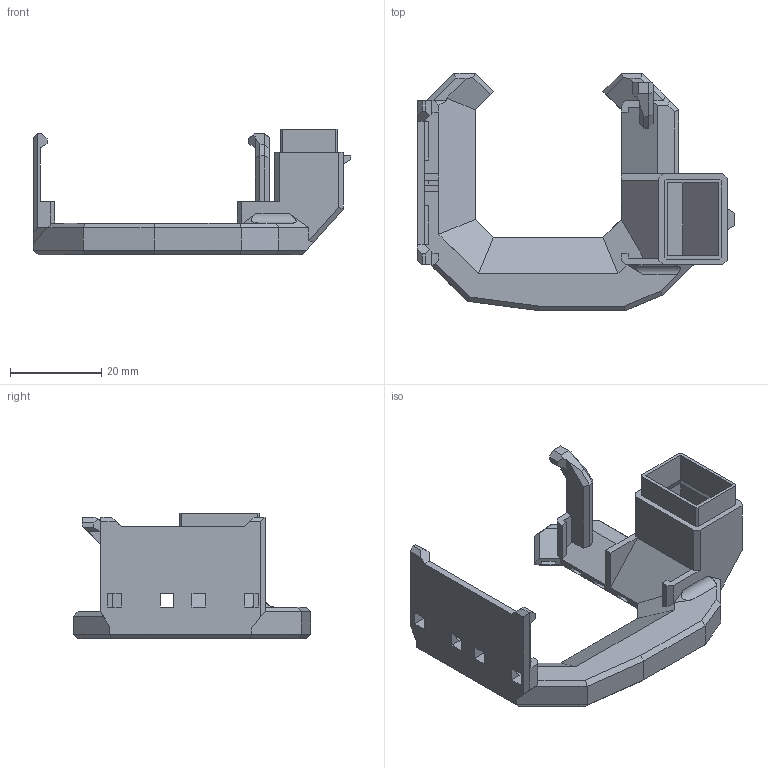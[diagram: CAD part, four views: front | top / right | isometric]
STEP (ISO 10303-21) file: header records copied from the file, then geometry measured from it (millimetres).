
FILE_DESCRIPTION (( 'STEP AP203' ), '1' );
FILE_NAME ('C-Duct.STEP', '2018-10-08T05:52:21', ( 'Prot0typ1cal' ), ( '' ), 'SwSTEP 2.0', 'SolidWorks 2014', '' );
FILE_SCHEMA (( 'CONFIG_CONTROL_DESIGN' ));
Length unit declared in the file: millimetre
Products named in the file (1): C-Duct
Bounding box: 69.5 x 52 x 27.6 mm (x, y, z)
Volume: 8740.1 mm3; surface area: 13521.6 mm2
Topology: 1 solids, 1 shells, 350 faces, 1052 edges, 676 vertices
Faces by surface type: plane 324, cylinder 26
Entity records: 11657 total; most frequent: CARTESIAN_POINT 2209, ORIENTED_EDGE 2104, DIRECTION 1746, EDGE_CURVE 1052, VECTOR 976, LINE 976, VERTEX_POINT 676, AXIS2_PLACEMENT_3D 385
